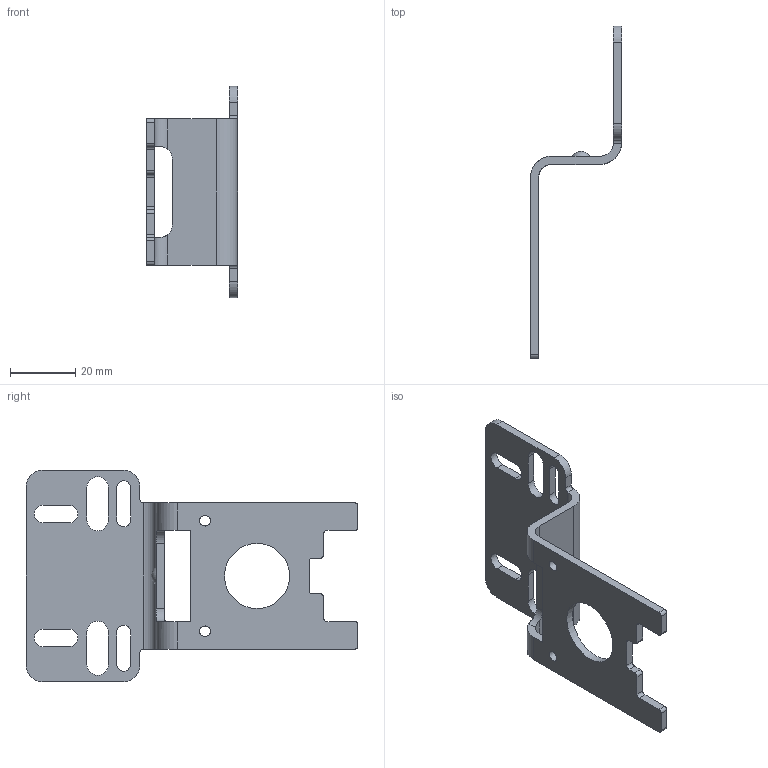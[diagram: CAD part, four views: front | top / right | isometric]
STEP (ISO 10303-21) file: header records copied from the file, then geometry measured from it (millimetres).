
FILE_DESCRIPTION((''),'2;1');
FILE_NAME('K:\ZEICHNG\webgrafik.intern\Air-Techniques Befestigungen und Behälter\step\KBW.1-1225.stp','2013-06-18T13:27:35',('RJanz'),(''),'Autodesk Inventor 2013','Autodesk Inventor 2013','');
FILE_SCHEMA(('CONFIG_CONTROL_DESIGN'));
Length unit declared in the file: millimetre
Products named in the file (1): 10007452
Bounding box: 28 x 102 x 65 mm (x, y, z)
Volume: 11809.9 mm3; surface area: 11363.5 mm2
Topology: 1 solids, 1 shells, 78 faces, 228 edges, 151 vertices
Faces by surface type: cylinder 39, plane 38, sphere 1
Full cylindrical faces by diameter (mm): 3.3 x2, 20 x1
Entity records: 2678 total; most frequent: CARTESIAN_POINT 483, DIRECTION 458, ORIENTED_EDGE 450, EDGE_CURVE 225, AXIS2_PLACEMENT_3D 158, VERTEX_POINT 151, VECTOR 142, LINE 142
